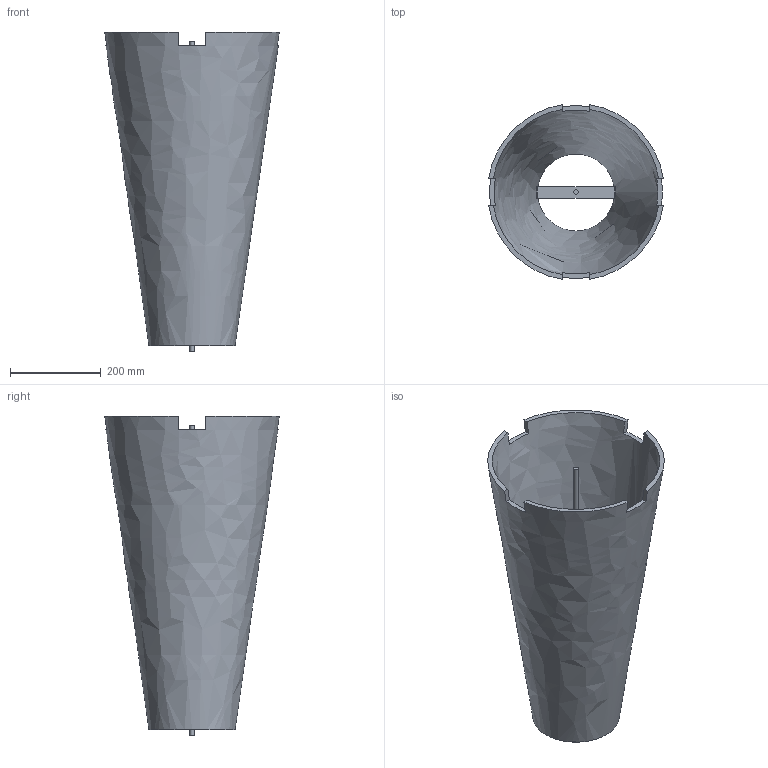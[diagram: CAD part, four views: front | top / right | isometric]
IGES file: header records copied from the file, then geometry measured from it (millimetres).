
Start section: Data from Parasolid IGES Translator 20.0.26, Copyright(c) 2006 Siemens P LM Software. All Rights Reserved.
Global section: file name: 45838.igs; native system: By Siemens PLM Incorporated; preprocessor: XPlus GENERIC/IGES 20.0.26; author: Noname; organization: Noname; date: 20210125.172823; units: millimetre
Bounding box: 385.36 x 385.36 x 706 mm (x, y, z)
Surface area: 1270142.8 mm2 (no closed solid volume)
Topology: 0 solids, 0 shells, 32 faces, 162 edges, 158 vertices
Faces by surface type: extrusion 29, revolution 3
